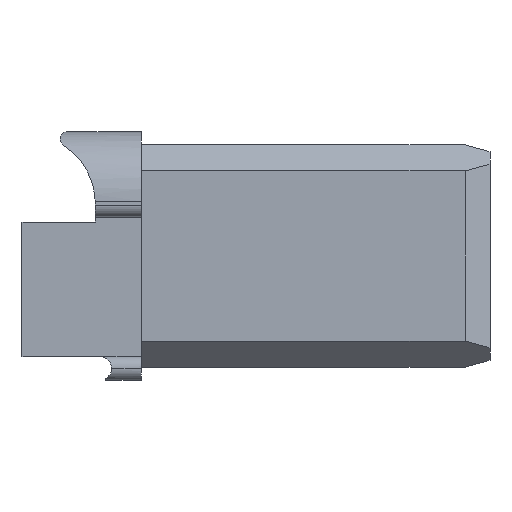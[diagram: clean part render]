
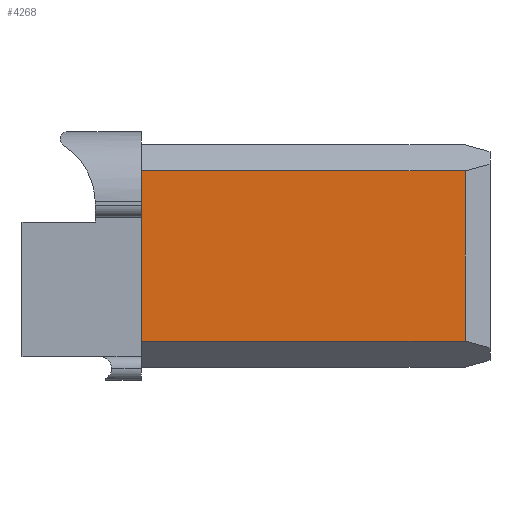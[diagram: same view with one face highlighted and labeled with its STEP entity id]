
A CAD part, front view. The second image highlights one B-rep face of the part: STEP entity #4268.
In plain terms, the highlighted planar face has unit normal (0, -1, 0).
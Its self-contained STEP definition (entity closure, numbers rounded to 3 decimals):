
#376 = LINE ( 'NONE', #4306, #3035 ) ;
#409 = AXIS2_PLACEMENT_3D ( 'NONE', #1801, #1448, #4020 ) ;
#488 = VECTOR ( 'NONE', #1644, 1000. ) ;
#641 = EDGE_LOOP ( 'NONE', ( #2341, #2047, #921, #1648 ) ) ;
#669 = VERTEX_POINT ( 'NONE', #3199 ) ;
#870 = LINE ( 'NONE', #3020, #488 ) ;
#921 = ORIENTED_EDGE ( 'NONE', *, *, #1128, .T. ) ;
#1011 = VERTEX_POINT ( 'NONE', #2637 ) ;
#1093 = LINE ( 'NONE', #2198, #2374 ) ;
#1128 = EDGE_CURVE ( 'NONE', #1231, #2944, #376, .T. ) ;
#1231 = VERTEX_POINT ( 'NONE', #3962 ) ;
#1448 = DIRECTION ( 'NONE',  ( 0., 1., 0. ) ) ;
#1549 = DIRECTION ( 'NONE',  ( 0., 0., 1. ) ) ;
#1644 = DIRECTION ( 'NONE',  ( 1., 0., 0. ) ) ;
#1648 = ORIENTED_EDGE ( 'NONE', *, *, #3806, .T. ) ;
#1801 = CARTESIAN_POINT ( 'NONE',  ( 35., -23.65, 11.15 ) ) ;
#2047 = ORIENTED_EDGE ( 'NONE', *, *, #3959, .T. ) ;
#2198 = CARTESIAN_POINT ( 'NONE',  ( 0., -23.65, 11.15 ) ) ;
#2209 = DIRECTION ( 'NONE',  ( -1., 0., 0. ) ) ;
#2341 = ORIENTED_EDGE ( 'NONE', *, *, #4371, .T. ) ;
#2374 = VECTOR ( 'NONE', #2516, 1000. ) ;
#2454 = VECTOR ( 'NONE', #1549, 1000. ) ;
#2509 = FACE_OUTER_BOUND ( 'NONE', #641, .T. ) ;
#2516 = DIRECTION ( 'NONE',  ( 0., 0., -1. ) ) ;
#2637 = CARTESIAN_POINT ( 'NONE',  ( 32.5, -23.65, -8.55 ) ) ;
#2699 = LINE ( 'NONE', #4105, #2454 ) ;
#2944 = VERTEX_POINT ( 'NONE', #3248 ) ;
#3020 = CARTESIAN_POINT ( 'NONE',  ( 35., -23.65, -8.55 ) ) ;
#3035 = VECTOR ( 'NONE', #2209, 1000. ) ;
#3199 = CARTESIAN_POINT ( 'NONE',  ( 0., -23.65, -8.55 ) ) ;
#3248 = CARTESIAN_POINT ( 'NONE',  ( 0., -23.65, 8.55 ) ) ;
#3806 = EDGE_CURVE ( 'NONE', #2944, #669, #1093, .T. ) ;
#3917 = PLANE ( 'NONE',  #409 ) ;
#3959 = EDGE_CURVE ( 'NONE', #1011, #1231, #2699, .T. ) ;
#3962 = CARTESIAN_POINT ( 'NONE',  ( 32.5, -23.65, 8.55 ) ) ;
#4020 = DIRECTION ( 'NONE',  ( 0., 0., 1. ) ) ;
#4105 = CARTESIAN_POINT ( 'NONE',  ( 32.5, -23.65, 11.15 ) ) ;
#4268 = ADVANCED_FACE ( 'NONE', ( #2509 ), #3917, .F. ) ;
#4306 = CARTESIAN_POINT ( 'NONE',  ( 35., -23.65, 8.55 ) ) ;
#4371 = EDGE_CURVE ( 'NONE', #669, #1011, #870, .T. ) ;
